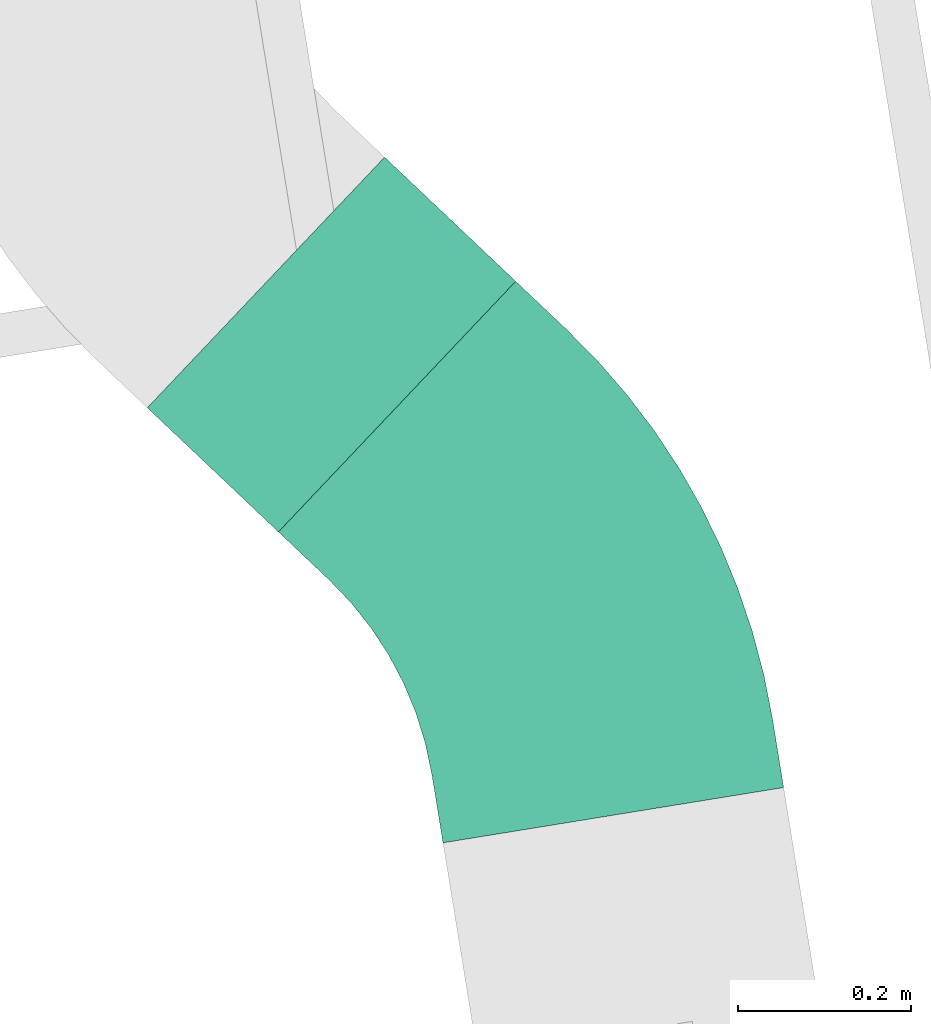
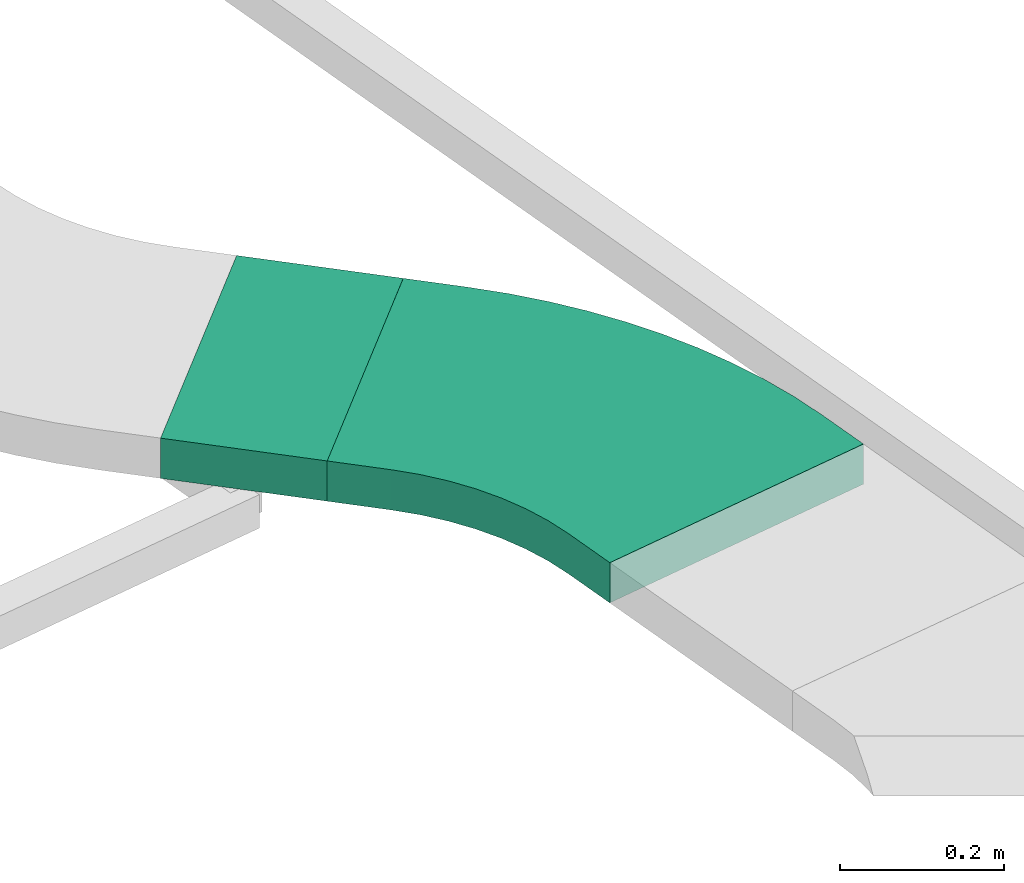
# One storey, part 5 of 20: 1 flow fitting, 1 flow segment.
"""IFC2X3 building model written with IfcOpenShell, lengths in millimetres."""

from ifc_helpers import new_model, entity, si_unit, converted_unit, derived_unit, direction, frame, frame_2d, origin, origin_with_axes, place, context, subcontext, project, spatial, polyline, circle_curve, parameter, trimmed, segment, composite_curve, rectangle, outline, extrude, source, transform, mapped, material, type_object, element, save


model = new_model("IFC2X3")

# Units and contexts
model_context = context("Model", 3, precision=0.01, world=origin(), true_north=direction((6.12323399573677e-17, 1.0)))
plan_context = context("Plan", 3, precision=1e-05, world=origin_with_axes())
body_context = subcontext(model_context, "Body", "Model", "MODEL_VIEW")
ifc_project = project(units=[converted_unit("PLANEANGLEUNIT", "DEGREE", entity("IfcPositiveLengthMeasure", 0.0174532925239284), si_unit("PLANEANGLEUNIT", "RADIAN"), dimensions=[0, 0, 0, 0, 0, 0, 0]), si_unit("AREAUNIT", "SQUARE_METRE"), si_unit("LENGTHUNIT", "METRE", prefix="MILLI"), si_unit("MASSUNIT", "GRAM", prefix="KILO"), si_unit("POWERUNIT", "WATT"), si_unit("PRESSUREUNIT", "PASCAL", prefix="KILO"), si_unit("FORCEUNIT", "NEWTON", prefix="KILO"), si_unit("ELECTRICVOLTAGEUNIT", "VOLT"), si_unit("ELECTRICCURRENTUNIT", "AMPERE"), si_unit("THERMODYNAMICTEMPERATUREUNIT", "DEGREE_CELSIUS"), si_unit("TIMEUNIT", "SECOND"), si_unit("VOLUMEUNIT", "CUBIC_METRE"), derived_unit("LINEARVELOCITYUNIT", [(si_unit("LENGTHUNIT", "METRE"), 1), (si_unit("TIMEUNIT", "SECOND"), -1)]), derived_unit("VOLUMETRICFLOWRATEUNIT", [(si_unit("VOLUMEUNIT", "CUBIC_METRE"), 1), (si_unit("TIMEUNIT", "SECOND"), -1)]), derived_unit("THERMALTRANSMITTANCEUNIT", [(si_unit("POWERUNIT", "WATT"), 1), (si_unit("THERMODYNAMICTEMPERATUREUNIT", "KELVIN"), -1), (si_unit("AREAUNIT", "SQUARE_METRE"), -1)]), derived_unit("SOUNDPRESSUREUNIT", [(si_unit("PRESSUREUNIT", "PASCAL"), 1)])], contexts=[model_context, plan_context])

# Site, building, storey
site_placement = place(None, frame((-0.219946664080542, 0.12226179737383, 0.0), z_axis=(0.0, 0.0, 1.0), x_axis=(-0.160236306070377, 0.987078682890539, 0.0)))
site = spatial("IfcSite", under=ifc_project, at=site_placement, Name="Default", CompositionType="ELEMENT")
building_placement = place(site_placement, origin_with_axes())
building = spatial("IfcBuilding", under=site, at=building_placement, CompositionType="ELEMENT")
storey_placement = place(building_placement, frame((0.0, 0.0, 50999.9999999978), z_axis=(0.0, 0.0, 1.0), x_axis=(1.0, 0.0, 0.0)))
storey = spatial("IfcBuildingStorey", under=building, at=storey_placement, Name="Nivå D", CompositionType="ELEMENT", Elevation=50999.9999999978)

# Flow fitting
ifc_material = material(Name="<Unnamed>")
cable_carrier_fitting_type = type_object("IfcCableCarrierFittingType", Name="M_Ladder Horizontal Bend:Standard", PredefinedType="NOTDEFINED", material=ifc_material)
shared_shape = source(origin(), body_context, "Body", "SweptSolid", [
    extrude(outline(composite_curve([segment(polyline([(-257.876574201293, -273.626721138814), (-177.876574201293, -273.626721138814)]), True, "CONTINUOUS"), segment(trimmed(circle_curve(frame_2d((-177.876574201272, 526.373278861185), x_axis=(0.0, -1.0)), 800.0), [parameter(0.0)], [parameter(37.3431612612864)], True, "PARAMETER"), True, "CONTINUOUS"), segment(polyline([(307.393396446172, -109.640129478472), (370.994737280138, -61.113132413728)]), True, "CONTINUOUS"), segment(polyline([(370.994737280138, -61.113132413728), (128.359751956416, 256.893571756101)]), True, "CONTINUOUS"), segment(polyline([(128.359751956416, 256.893571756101), (64.7584111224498, 208.366574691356)]), True, "CONTINUOUS"), segment(trimmed(circle_curve(frame_2d((-177.876574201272, 526.373278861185), x_axis=(0.0, -1.0)), 400.0), [parameter(0.0)], [parameter(37.3431612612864)], True, "PARAMETER"), False, "CONTINUOUS"), segment(polyline([(-177.876574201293, 126.373278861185), (-257.876574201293, 126.373278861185)]), True, "CONTINUOUS"), segment(polyline([(-257.876574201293, 126.373278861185), (-257.876574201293, -273.626721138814)]), True, "CONTINUOUS")], self_intersect=False)), frame((-24.8805732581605, 73.6267211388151, -30.0)), (0.0, 0.0, 1.0), 60.0000000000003),
])
flow_fitting_placement = place(storey_placement, frame((772115.867720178, -602942.480498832, 2925.0), z_axis=(0.0, 0.0, 1.0), x_axis=(1.0, 0.0, 0.0)))
element("IfcFlowFitting", 1, at=flow_fitting_placement, inside=storey, type_object=cable_carrier_fitting_type, material=ifc_material, Name="M_Ladder Horizontal Bend:Standard", ObjectType="M_Ladder Horizontal Bend:Standard", context=body_context, shape_type="MappedRepresentation", body=[
    mapped(shared_shape, transform((0.0, 0.0, 0.0), scale=1.0)),
])

# Flow segment
cable_carrier_segment_type = type_object("IfcCableCarrierSegmentType", Name="Cable Tray with Fittings:Kabelbro", PredefinedType="CABLETRAYSEGMENT")
flow_segment_placement = place(storey_placement, origin_with_axes())
element("IfcFlowSegment", 2, at=flow_segment_placement, inside=storey, type_object=cable_carrier_segment_type, Name="Cable Tray with Fittings:Kabelbro", ObjectType="Cable Tray with Fittings:Kabelbro", context=body_context, shape_type="SweptSolid", body=[
    extrude(rectangle(XDim=209.312137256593, YDim=399.999999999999, at=frame_2d((-2.10178541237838e-11, -2.75406364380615e-11), x_axis=(1.0, 0.0))), frame((772423.867720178, -602707.480498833, 2895.0), z_axis=(0.0, 0.0, 1.0), x_axis=(0.795016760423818, 0.606587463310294, 0.0)), (0.0, 0.0, 1.0), 60.0000000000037),
])

save(model, "model.ifc")
